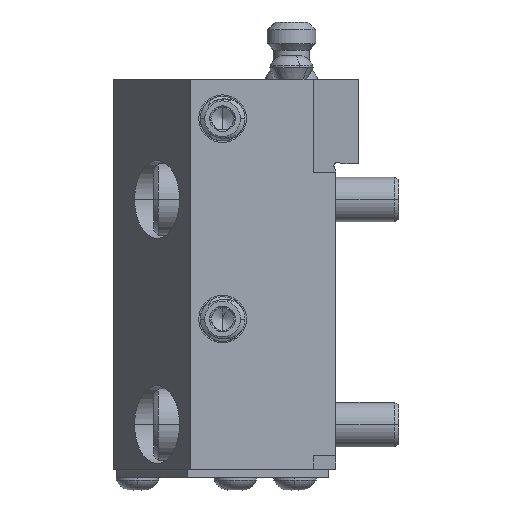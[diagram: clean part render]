
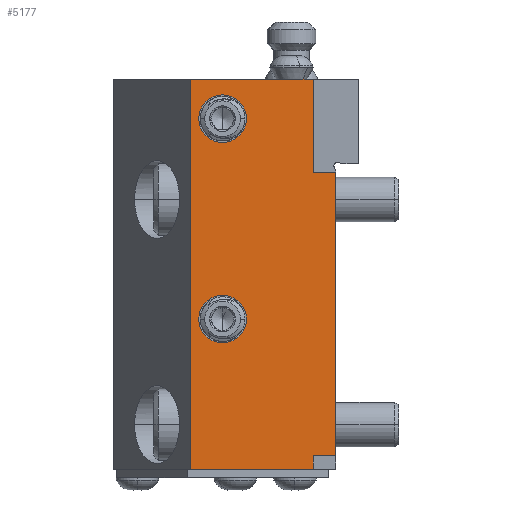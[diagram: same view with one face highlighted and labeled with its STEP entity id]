
A CAD part, left-side view. The second image highlights one B-rep face of the part: STEP entity #5177.
In plain terms, the highlighted planar face has unit normal (-1, 0, 0).
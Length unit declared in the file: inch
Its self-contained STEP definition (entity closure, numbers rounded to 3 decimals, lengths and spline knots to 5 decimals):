
#146 = DIRECTION ( 'NONE',  ( 1., 0., 0. ) ) ;
#295 = DIRECTION ( 'NONE',  ( 0., 0., -1. ) ) ;
#345 = VERTEX_POINT ( 'NONE', #4178 ) ;
#393 = CIRCLE ( 'NONE', #11198, 0.2105 ) ;
#444 = EDGE_CURVE ( 'NONE', #4400, #3818, #8594, .T. ) ;
#957 = DIRECTION ( 'NONE',  ( 0., 0., -1. ) ) ;
#1020 = CARTESIAN_POINT ( 'NONE',  ( -1.77165, 0.28344, 3.45 ) ) ;
#1135 = CARTESIAN_POINT ( 'NONE',  ( -1.77165, 0., 1.11785 ) ) ;
#1252 = FACE_BOUND ( 'NONE', #14315, .T. ) ;
#1347 = ORIENTED_EDGE ( 'NONE', *, *, #444, .T. ) ;
#1541 = FACE_OUTER_BOUND ( 'NONE', #16038, .T. ) ;
#1597 = CIRCLE ( 'NONE', #13289, 0.2105 ) ;
#1642 = CARTESIAN_POINT ( 'NONE',  ( -1.77165, -1., 0. ) ) ;
#1707 = CARTESIAN_POINT ( 'NONE',  ( -1.77165, -1.2, 3.45 ) ) ;
#2045 = VERTEX_POINT ( 'NONE', #4458 ) ;
#2179 = CARTESIAN_POINT ( 'NONE',  ( -1.77165, 0., 2.8895 ) ) ;
#2342 = ORIENTED_EDGE ( 'NONE', *, *, #2753, .T. ) ;
#2592 = CARTESIAN_POINT ( 'NONE',  ( -1.77165, -1., 2.625 ) ) ;
#2636 = DIRECTION ( 'NONE',  ( 0., 0., -1. ) ) ;
#2706 = EDGE_CURVE ( 'NONE', #13292, #7570, #8493, .T. ) ;
#2731 = VECTOR ( 'NONE', #18060, 39.37008 ) ;
#2753 = EDGE_CURVE ( 'NONE', #7570, #13292, #393, .T. ) ;
#2812 = VERTEX_POINT ( 'NONE', #1135 ) ;
#2826 = EDGE_CURVE ( 'NONE', #7864, #2812, #1597, .T. ) ;
#3043 = CARTESIAN_POINT ( 'NONE',  ( -1.77165, -1.2, 2.625 ) ) ;
#3101 = LINE ( 'NONE', #14273, #7422 ) ;
#3579 = DIRECTION ( 'NONE',  ( 0., 1., 0. ) ) ;
#3738 = EDGE_CURVE ( 'NONE', #13983, #15273, #10308, .T. ) ;
#3818 = VERTEX_POINT ( 'NONE', #2592 ) ;
#3853 = CARTESIAN_POINT ( 'NONE',  ( -1.77165, -0.8, 2.625 ) ) ;
#3955 = DIRECTION ( 'NONE',  ( 1., 0., 0. ) ) ;
#4178 = CARTESIAN_POINT ( 'NONE',  ( -1.77165, -0.8, 0.12 ) ) ;
#4400 = VERTEX_POINT ( 'NONE', #7627 ) ;
#4448 = EDGE_CURVE ( 'NONE', #4733, #18392, #4990, .T. ) ;
#4457 = DIRECTION ( 'NONE',  ( 0., 0., -1. ) ) ;
#4458 = CARTESIAN_POINT ( 'NONE',  ( -1.77165, -0.8, 2.625 ) ) ;
#4548 = LINE ( 'NONE', #3043, #5197 ) ;
#4553 = CARTESIAN_POINT ( 'NONE',  ( -1.77165, -0.8, 3.45 ) ) ;
#4733 = VERTEX_POINT ( 'NONE', #4553 ) ;
#4751 = ORIENTED_EDGE ( 'NONE', *, *, #9137, .T. ) ;
#4856 = ORIENTED_EDGE ( 'NONE', *, *, #6093, .T. ) ;
#4990 = LINE ( 'NONE', #1707, #17396 ) ;
#5177 = ADVANCED_FACE ( 'NONE', ( #1252, #11588, #1541 ), #9900, .T. ) ;
#5197 = VECTOR ( 'NONE', #17590, 39.37008 ) ;
#5449 = DIRECTION ( 'NONE',  ( 1., 0., 0. ) ) ;
#5507 = AXIS2_PLACEMENT_3D ( 'NONE', #7271, #12998, #10265 ) ;
#5926 = VECTOR ( 'NONE', #14301, 39.37008 ) ;
#6093 = EDGE_CURVE ( 'NONE', #345, #4400, #8032, .T. ) ;
#6151 = CARTESIAN_POINT ( 'NONE',  ( -1.77165, 0., 1.32835 ) ) ;
#6303 = CARTESIAN_POINT ( 'NONE',  ( -1.77165, 0., 3.3105 ) ) ;
#6527 = VECTOR ( 'NONE', #9581, 39.37008 ) ;
#6670 = LINE ( 'NONE', #3853, #6527 ) ;
#6877 = CARTESIAN_POINT ( 'NONE',  ( -1.77165, 0.28344, 3.45 ) ) ;
#7271 = CARTESIAN_POINT ( 'NONE',  ( -1.77165, -1.2, 3.45 ) ) ;
#7422 = VECTOR ( 'NONE', #295, 39.37008 ) ;
#7425 = ORIENTED_EDGE ( 'NONE', *, *, #4448, .T. ) ;
#7570 = VERTEX_POINT ( 'NONE', #2179 ) ;
#7627 = CARTESIAN_POINT ( 'NONE',  ( -1.77165, -1., 0.12 ) ) ;
#7864 = VERTEX_POINT ( 'NONE', #8077 ) ;
#8032 = LINE ( 'NONE', #9438, #2731 ) ;
#8077 = CARTESIAN_POINT ( 'NONE',  ( -1.77165, 0., 1.53885 ) ) ;
#8194 = DIRECTION ( 'NONE',  ( 0., 0., -1. ) ) ;
#8247 = ORIENTED_EDGE ( 'NONE', *, *, #3738, .F. ) ;
#8280 = CARTESIAN_POINT ( 'NONE',  ( -1.77165, 0., 3.1 ) ) ;
#8493 = CIRCLE ( 'NONE', #16891, 0.2105 ) ;
#8594 = LINE ( 'NONE', #1642, #5926 ) ;
#9137 = EDGE_CURVE ( 'NONE', #3818, #2045, #4548, .T. ) ;
#9183 = DIRECTION ( 'NONE',  ( 0., 1., 0. ) ) ;
#9438 = CARTESIAN_POINT ( 'NONE',  ( -1.77165, -0.8, 0.12 ) ) ;
#9516 = ORIENTED_EDGE ( 'NONE', *, *, #11553, .T. ) ;
#9581 = DIRECTION ( 'NONE',  ( 0., 0., 1. ) ) ;
#9662 = ORIENTED_EDGE ( 'NONE', *, *, #2826, .T. ) ;
#9808 = EDGE_LOOP ( 'NONE', ( #15802, #2342 ) ) ;
#9900 = PLANE ( 'NONE',  #5507 ) ;
#10265 = DIRECTION ( 'NONE',  ( 0., -1., 0. ) ) ;
#10308 = LINE ( 'NONE', #17621, #14699 ) ;
#11198 = AXIS2_PLACEMENT_3D ( 'NONE', #18029, #3955, #2636 ) ;
#11377 = ORIENTED_EDGE ( 'NONE', *, *, #11678, .F. ) ;
#11553 = EDGE_CURVE ( 'NONE', #18392, #15273, #12509, .T. ) ;
#11588 = FACE_BOUND ( 'NONE', #9808, .T. ) ;
#11678 = EDGE_CURVE ( 'NONE', #345, #13983, #3101, .T. ) ;
#11891 = ORIENTED_EDGE ( 'NONE', *, *, #16732, .T. ) ;
#12509 = LINE ( 'NONE', #6877, #14293 ) ;
#12926 = ORIENTED_EDGE ( 'NONE', *, *, #17959, .T. ) ;
#12998 = DIRECTION ( 'NONE',  ( -1., 0., 0. ) ) ;
#13289 = AXIS2_PLACEMENT_3D ( 'NONE', #18310, #5449, #957 ) ;
#13292 = VERTEX_POINT ( 'NONE', #6303 ) ;
#13721 = DIRECTION ( 'NONE',  ( 0., 0., -1. ) ) ;
#13983 = VERTEX_POINT ( 'NONE', #15037 ) ;
#14086 = DIRECTION ( 'NONE',  ( 1., 0., 0. ) ) ;
#14191 = CARTESIAN_POINT ( 'NONE',  ( -1.77165, 0.28344, 0. ) ) ;
#14273 = CARTESIAN_POINT ( 'NONE',  ( -1.77165, -0.8, 0.12 ) ) ;
#14293 = VECTOR ( 'NONE', #8194, 39.37008 ) ;
#14301 = DIRECTION ( 'NONE',  ( 0., 0., 1. ) ) ;
#14315 = EDGE_LOOP ( 'NONE', ( #9662, #12926 ) ) ;
#14699 = VECTOR ( 'NONE', #9183, 39.37008 ) ;
#15037 = CARTESIAN_POINT ( 'NONE',  ( -1.77165, -0.8, 0. ) ) ;
#15273 = VERTEX_POINT ( 'NONE', #14191 ) ;
#15802 = ORIENTED_EDGE ( 'NONE', *, *, #2706, .T. ) ;
#16038 = EDGE_LOOP ( 'NONE', ( #8247, #11377, #4856, #1347, #4751, #11891, #7425, #9516 ) ) ;
#16732 = EDGE_CURVE ( 'NONE', #2045, #4733, #6670, .T. ) ;
#16891 = AXIS2_PLACEMENT_3D ( 'NONE', #8280, #14086, #13721 ) ;
#17045 = CIRCLE ( 'NONE', #18532, 0.2105 ) ;
#17396 = VECTOR ( 'NONE', #3579, 39.37008 ) ;
#17590 = DIRECTION ( 'NONE',  ( 0., 1., 0. ) ) ;
#17621 = CARTESIAN_POINT ( 'NONE',  ( -1.77165, -1.2, 0. ) ) ;
#17959 = EDGE_CURVE ( 'NONE', #2812, #7864, #17045, .T. ) ;
#18029 = CARTESIAN_POINT ( 'NONE',  ( -1.77165, 0., 3.1 ) ) ;
#18060 = DIRECTION ( 'NONE',  ( 0., -1., 0. ) ) ;
#18310 = CARTESIAN_POINT ( 'NONE',  ( -1.77165, 0., 1.32835 ) ) ;
#18392 = VERTEX_POINT ( 'NONE', #1020 ) ;
#18532 = AXIS2_PLACEMENT_3D ( 'NONE', #6151, #146, #4457 ) ;
